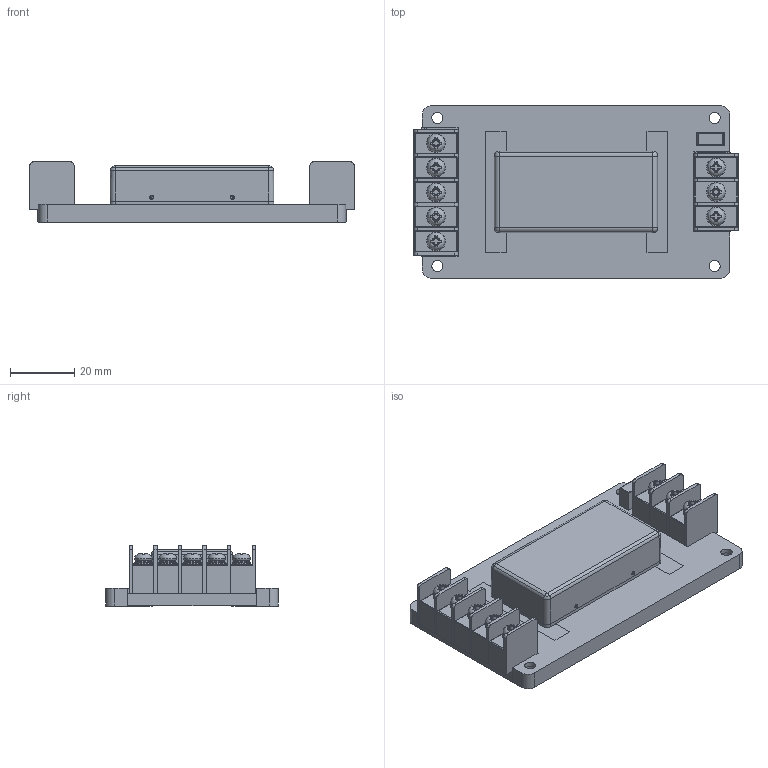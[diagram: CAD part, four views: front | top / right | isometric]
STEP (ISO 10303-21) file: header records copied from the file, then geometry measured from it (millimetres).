
FILE_DESCRIPTION(/* description */ (''),/* implementation_level */ '2;1');
FILE_NAME(/* name */ 'D:\Inventor\3D Files\200508\ST50F - A5.stp',/* time_stamp */ '2020-04-23T11:29:13+08:00',/* author */ ('peter'),/* organization */ (''),/* preprocessor_version */ 'ST-DEVELOPER v15.2',/* originating_system */ 'Autodesk Inventor 2014',/* authorisation */ '');
FILE_SCHEMA (('AUTOMOTIVE_DESIGN { 1 0 10303 214 3 1 1 }'));
Length unit declared in the file: millimetre
Products named in the file (13): PCB; TOP CASE - A2; BOT CASE - A2 _ TRACO; INLET 7R62 mm OPEN; INLET 7R62 mm - L; SCREW CH_W  M3_6mm; INLET - IN; INLET - 3PIN; INLET - OUT; HOLDER - AHC AFC; A5 ASSEMBLY; ST50F; ST50F - A5
Bounding box: 100.65 x 53.5 x 18.7 mm (x, y, z)
Volume: 36151.7 mm3; surface area: 53288.4 mm2
Topology: 45 solids, 46 shells, 909 faces, 2239 edges, 1471 vertices
Faces by surface type: plane 609, cylinder 172, torus 64, cone 39, bspline 17, sphere 8
Full cylindrical faces by diameter (mm): 1.2 x12, 1.39 x4, 3 x18, 3.1 x9, 3.476 x4, 3.5 x11, 3.972 x1, 5.5 x4, 5.8 x9
Entity records: 12275 total; most frequent: CARTESIAN_POINT 2286, DIRECTION 1998, ORIENTED_EDGE 1900, EDGE_CURVE 950, LINE 710, VECTOR 710, VERTEX_POINT 657, AXIS2_PLACEMENT_3D 644
